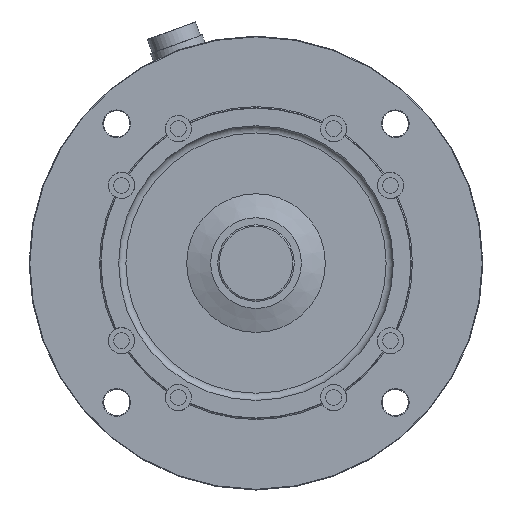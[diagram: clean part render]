
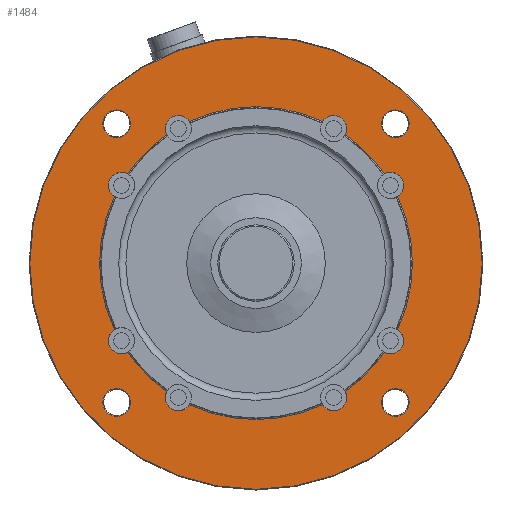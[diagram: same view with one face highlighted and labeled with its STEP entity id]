
A CAD part, front view. The second image highlights one B-rep face of the part: STEP entity #1484.
In plain terms, the highlighted planar face has unit normal (0, -1, 0).
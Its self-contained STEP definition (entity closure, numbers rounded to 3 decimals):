
#375=PLANE('',#6211);
#481=FACE_BOUND('',#2202,.T.);
#482=FACE_BOUND('',#2203,.T.);
#483=FACE_BOUND('',#2204,.T.);
#484=FACE_BOUND('',#2205,.T.);
#485=FACE_BOUND('',#2206,.T.);
#1484=ADVANCED_FACE('',(#481,#482,#483,#484,#485,#1929),#375,.T.);
#1929=FACE_OUTER_BOUND('',#2207,.T.);
#2202=EDGE_LOOP('',(#3066));
#2203=EDGE_LOOP('',(#3067));
#2204=EDGE_LOOP('',(#3068));
#2205=EDGE_LOOP('',(#3069));
#2206=EDGE_LOOP('',(#3070,#3071,#3072,#3073,#3074,#3075,#3076,#3077,#3078,
#3079,#3080,#3081,#3082,#3083,#3084,#3085));
#2207=EDGE_LOOP('',(#3086));
#3066=ORIENTED_EDGE('',*,*,#5004,.T.);
#3067=ORIENTED_EDGE('',*,*,#5005,.T.);
#3068=ORIENTED_EDGE('',*,*,#5006,.T.);
#3069=ORIENTED_EDGE('',*,*,#5007,.T.);
#3070=ORIENTED_EDGE('',*,*,#5008,.F.);
#3071=ORIENTED_EDGE('',*,*,#4947,.T.);
#3072=ORIENTED_EDGE('',*,*,#5009,.F.);
#3073=ORIENTED_EDGE('',*,*,#5010,.T.);
#3074=ORIENTED_EDGE('',*,*,#5011,.F.);
#3075=ORIENTED_EDGE('',*,*,#4988,.T.);
#3076=ORIENTED_EDGE('',*,*,#5012,.F.);
#3077=ORIENTED_EDGE('',*,*,#4968,.T.);
#3078=ORIENTED_EDGE('',*,*,#5013,.F.);
#3079=ORIENTED_EDGE('',*,*,#4993,.T.);
#3080=ORIENTED_EDGE('',*,*,#5014,.F.);
#3081=ORIENTED_EDGE('',*,*,#4981,.T.);
#3082=ORIENTED_EDGE('',*,*,#5015,.F.);
#3083=ORIENTED_EDGE('',*,*,#4959,.T.);
#3084=ORIENTED_EDGE('',*,*,#5016,.F.);
#3085=ORIENTED_EDGE('',*,*,#4971,.T.);
#3086=ORIENTED_EDGE('',*,*,#5017,.T.);
#4372=VERTEX_POINT('',#9130);
#4373=VERTEX_POINT('',#9131);
#4384=VERTEX_POINT('',#9190);
#4385=VERTEX_POINT('',#9191);
#4392=VERTEX_POINT('',#9256);
#4393=VERTEX_POINT('',#9258);
#4394=VERTEX_POINT('',#9295);
#4395=VERTEX_POINT('',#9297);
#4402=VERTEX_POINT('',#9349);
#4403=VERTEX_POINT('',#9351);
#4408=VERTEX_POINT('',#9397);
#4409=VERTEX_POINT('',#9399);
#4412=VERTEX_POINT('',#9427);
#4413=VERTEX_POINT('',#9428);
#4422=VERTEX_POINT('',#9484);
#4423=VERTEX_POINT('',#9486);
#4424=VERTEX_POINT('',#9488);
#4425=VERTEX_POINT('',#9490);
#4426=VERTEX_POINT('',#9493);
#4427=VERTEX_POINT('',#9495);
#4428=VERTEX_POINT('',#9503);
#4947=EDGE_CURVE('',#4372,#4373,#5632,.T.);
#4959=EDGE_CURVE('',#4384,#4385,#5638,.T.);
#4968=EDGE_CURVE('',#4393,#4392,#5642,.T.);
#4971=EDGE_CURVE('',#4395,#4394,#5643,.T.);
#4981=EDGE_CURVE('',#4403,#4402,#5647,.T.);
#4988=EDGE_CURVE('',#4409,#4408,#5650,.T.);
#4993=EDGE_CURVE('',#4412,#4413,#5652,.T.);
#5004=EDGE_CURVE('',#4422,#4422,#5661,.T.);
#5005=EDGE_CURVE('',#4423,#4423,#5662,.T.);
#5006=EDGE_CURVE('',#4424,#4424,#5663,.T.);
#5007=EDGE_CURVE('',#4425,#4425,#5664,.T.);
#5008=EDGE_CURVE('',#4372,#4394,#5665,.T.);
#5009=EDGE_CURVE('',#4426,#4373,#5666,.T.);
#5010=EDGE_CURVE('',#4426,#4427,#5667,.T.);
#5011=EDGE_CURVE('',#4409,#4427,#5668,.T.);
#5012=EDGE_CURVE('',#4393,#4408,#5669,.T.);
#5013=EDGE_CURVE('',#4412,#4392,#5670,.T.);
#5014=EDGE_CURVE('',#4403,#4413,#5671,.T.);
#5015=EDGE_CURVE('',#4384,#4402,#5672,.T.);
#5016=EDGE_CURVE('',#4395,#4385,#5673,.T.);
#5017=EDGE_CURVE('',#4428,#4428,#5674,.T.);
#5632=CIRCLE('',#6152,65.5);
#5638=CIRCLE('',#6161,65.5);
#5642=CIRCLE('',#6167,65.5);
#5643=CIRCLE('',#6169,65.5);
#5647=CIRCLE('',#6176,65.5);
#5650=CIRCLE('',#6181,65.5);
#5652=CIRCLE('',#6185,65.5);
#5661=CIRCLE('',#6197,5.8);
#5662=CIRCLE('',#6198,5.8);
#5663=CIRCLE('',#6199,5.8);
#5664=CIRCLE('',#6200,5.8);
#5665=CIRCLE('',#6201,5.5);
#5666=CIRCLE('',#6202,5.5);
#5667=CIRCLE('',#6203,65.5);
#5668=CIRCLE('',#6204,5.5);
#5669=CIRCLE('',#6205,5.5);
#5670=CIRCLE('',#6206,5.5);
#5671=CIRCLE('',#6207,5.5);
#5672=CIRCLE('',#6208,5.5);
#5673=CIRCLE('',#6209,5.5);
#5674=CIRCLE('',#6210,94.7);
#6152=AXIS2_PLACEMENT_3D('',#9129,#7103,#7104);
#6161=AXIS2_PLACEMENT_3D('',#9189,#7125,#7126);
#6167=AXIS2_PLACEMENT_3D('',#9257,#7139,#7140);
#6169=AXIS2_PLACEMENT_3D('',#9296,#7143,#7144);
#6176=AXIS2_PLACEMENT_3D('',#9350,#7161,#7162);
#6181=AXIS2_PLACEMENT_3D('',#9398,#7173,#7174);
#6185=AXIS2_PLACEMENT_3D('',#9426,#7183,#7184);
#6197=AXIS2_PLACEMENT_3D('',#9483,#7207,#7208);
#6198=AXIS2_PLACEMENT_3D('',#9485,#7209,#7210);
#6199=AXIS2_PLACEMENT_3D('',#9487,#7211,#7212);
#6200=AXIS2_PLACEMENT_3D('',#9489,#7213,#7214);
#6201=AXIS2_PLACEMENT_3D('',#9491,#7215,#7216);
#6202=AXIS2_PLACEMENT_3D('',#9492,#7217,#7218);
#6203=AXIS2_PLACEMENT_3D('',#9494,#7219,#7220);
#6204=AXIS2_PLACEMENT_3D('',#9496,#7221,#7222);
#6205=AXIS2_PLACEMENT_3D('',#9497,#7223,#7224);
#6206=AXIS2_PLACEMENT_3D('',#9498,#7225,#7226);
#6207=AXIS2_PLACEMENT_3D('',#9499,#7227,#7228);
#6208=AXIS2_PLACEMENT_3D('',#9500,#7229,#7230);
#6209=AXIS2_PLACEMENT_3D('',#9501,#7231,#7232);
#6210=AXIS2_PLACEMENT_3D('',#9502,#7233,#7234);
#6211=AXIS2_PLACEMENT_3D('',#9504,#7235,#7236);
#7103=DIRECTION('',(0.,1.,0.));
#7104=DIRECTION('',(0.,0.,-1.));
#7125=DIRECTION('',(0.,1.,0.));
#7126=DIRECTION('',(0.,0.,-1.));
#7139=DIRECTION('',(0.,1.,0.));
#7140=DIRECTION('',(0.,0.,-1.));
#7143=DIRECTION('',(0.,1.,0.));
#7144=DIRECTION('',(0.,0.,-1.));
#7161=DIRECTION('',(0.,1.,0.));
#7162=DIRECTION('',(0.,0.,-1.));
#7173=DIRECTION('',(0.,1.,0.));
#7174=DIRECTION('',(0.,0.,-1.));
#7183=DIRECTION('',(0.,1.,0.));
#7184=DIRECTION('',(0.,0.,-1.));
#7207=DIRECTION('',(0.,1.,0.));
#7208=DIRECTION('',(0.,0.,-1.));
#7209=DIRECTION('',(0.,1.,0.));
#7210=DIRECTION('',(0.,0.,-1.));
#7211=DIRECTION('',(0.,1.,0.));
#7212=DIRECTION('',(0.,0.,-1.));
#7213=DIRECTION('',(0.,1.,0.));
#7214=DIRECTION('',(0.,0.,-1.));
#7215=DIRECTION('',(0.,-1.,0.));
#7216=DIRECTION('',(0.,0.,-1.));
#7217=DIRECTION('',(0.,-1.,0.));
#7218=DIRECTION('',(0.,0.,-1.));
#7219=DIRECTION('',(0.,1.,0.));
#7220=DIRECTION('',(0.,0.,-1.));
#7221=DIRECTION('',(0.,-1.,0.));
#7222=DIRECTION('',(0.,0.,-1.));
#7223=DIRECTION('',(0.,-1.,0.));
#7224=DIRECTION('',(0.,0.,-1.));
#7225=DIRECTION('',(0.,-1.,0.));
#7226=DIRECTION('',(0.,0.,-1.));
#7227=DIRECTION('',(0.,-1.,0.));
#7228=DIRECTION('',(0.,0.,-1.));
#7229=DIRECTION('',(0.,-1.,0.));
#7230=DIRECTION('',(0.,0.,-1.));
#7231=DIRECTION('',(0.,-1.,0.));
#7232=DIRECTION('',(0.,0.,-1.));
#7233=DIRECTION('',(0.,-1.,0.));
#7234=DIRECTION('',(0.,0.,-1.));
#7235=DIRECTION('',(0.,-1.,0.));
#7236=DIRECTION('',(0.,0.,-1.));
#9129=CARTESIAN_POINT('',(0.,0.,0.));
#9130=CARTESIAN_POINT('',(59.272,0.,27.877));
#9131=CARTESIAN_POINT('',(59.272,0.,-27.877));
#9189=CARTESIAN_POINT('',(0.,0.,0.));
#9190=CARTESIAN_POINT('',(-27.877,0.,59.272));
#9191=CARTESIAN_POINT('',(27.877,0.,59.272));
#9256=CARTESIAN_POINT('',(-53.778,0.,-37.392));
#9257=CARTESIAN_POINT('',(0.,0.,0.));
#9258=CARTESIAN_POINT('',(-37.392,0.,-53.778));
#9295=CARTESIAN_POINT('',(53.778,0.,37.392));
#9296=CARTESIAN_POINT('',(0.,0.,0.));
#9297=CARTESIAN_POINT('',(37.392,0.,53.778));
#9349=CARTESIAN_POINT('',(-37.392,0.,53.778));
#9350=CARTESIAN_POINT('',(0.,0.,0.));
#9351=CARTESIAN_POINT('',(-53.778,0.,37.392));
#9397=CARTESIAN_POINT('',(-27.877,0.,-59.272));
#9398=CARTESIAN_POINT('',(0.,0.,0.));
#9399=CARTESIAN_POINT('',(27.877,0.,-59.272));
#9426=CARTESIAN_POINT('',(0.,0.,0.));
#9427=CARTESIAN_POINT('',(-59.272,0.,-27.877));
#9428=CARTESIAN_POINT('',(-59.272,0.,27.877));
#9483=CARTESIAN_POINT('',(-58.336,0.,-58.336));
#9484=CARTESIAN_POINT('',(-58.336,0.,-64.136));
#9485=CARTESIAN_POINT('',(58.336,0.,58.336));
#9486=CARTESIAN_POINT('',(58.336,0.,52.536));
#9487=CARTESIAN_POINT('',(-58.336,0.,58.336));
#9488=CARTESIAN_POINT('',(-58.336,0.,52.536));
#9489=CARTESIAN_POINT('',(58.336,0.,-58.336));
#9490=CARTESIAN_POINT('',(58.336,0.,-64.136));
#9491=CARTESIAN_POINT('',(56.292,0.,32.5));
#9492=CARTESIAN_POINT('',(56.292,0.,-32.5));
#9493=CARTESIAN_POINT('',(53.778,0.,-37.392));
#9494=CARTESIAN_POINT('',(0.,0.,0.));
#9495=CARTESIAN_POINT('',(37.392,0.,-53.778));
#9496=CARTESIAN_POINT('',(32.5,0.,-56.292));
#9497=CARTESIAN_POINT('',(-32.5,0.,-56.292));
#9498=CARTESIAN_POINT('',(-56.292,0.,-32.5));
#9499=CARTESIAN_POINT('',(-56.292,0.,32.5));
#9500=CARTESIAN_POINT('',(-32.5,0.,56.292));
#9501=CARTESIAN_POINT('',(32.5,0.,56.292));
#9502=CARTESIAN_POINT('',(0.,0.,0.));
#9503=CARTESIAN_POINT('',(0.,0.,-94.7));
#9504=CARTESIAN_POINT('',(0.,0.,0.));
